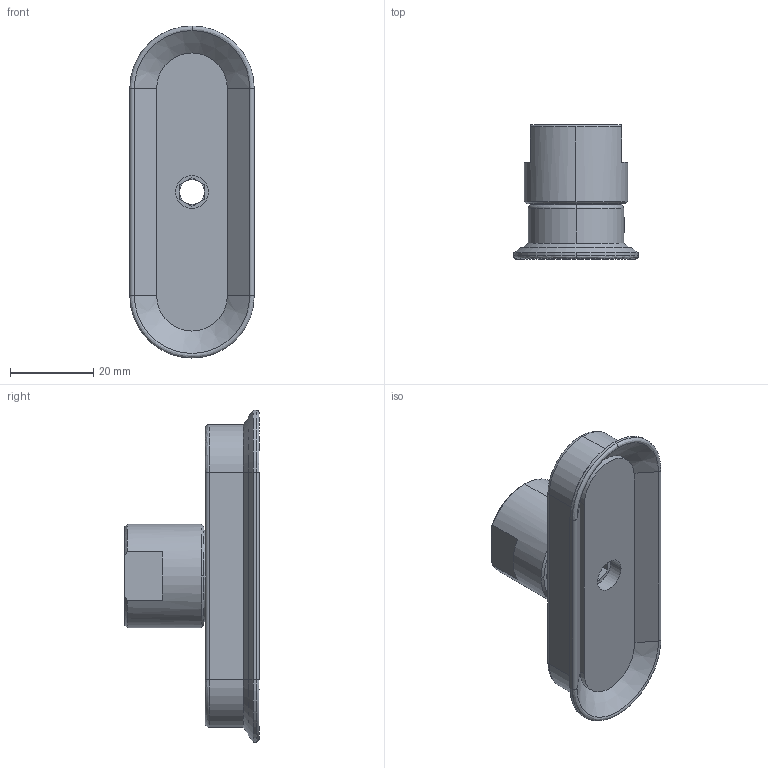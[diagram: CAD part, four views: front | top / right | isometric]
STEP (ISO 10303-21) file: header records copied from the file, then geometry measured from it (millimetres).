
FILE_DESCRIPTION (( 'STEP AP214' ), '1' );
FILE_NAME ('SAOF-9030-G3-8IG.STEP', '2023-03-07T06:23:28', ( 'Windows User' ), ( 'P R C' ), 'SwSTEP 2.0', 'SolidWorks 2019', '' );
FILE_SCHEMA (( 'AUTOMOTIVE_DESIGN' ));
Length unit declared in the file: millimetre
Products named in the file (1): SAOF-9030-G3-8IG
Bounding box: 30 x 32.3 x 80 mm (x, y, z)
Volume: 23505.2 mm3; surface area: 10498.9 mm2
Topology: 2 solids, 2 shells, 140 faces, 334 edges, 208 vertices
Faces by surface type: plane 72, cylinder 26, bspline 23, cone 19
Entity records: 7554 total; most frequent: CARTESIAN_POINT 2821, ORIENTED_EDGE 668, DIRECTION 612, EDGE_CURVE 334, VERTEX_POINT 208, AXIS2_PLACEMENT_3D 205, VECTOR 202, LINE 202
